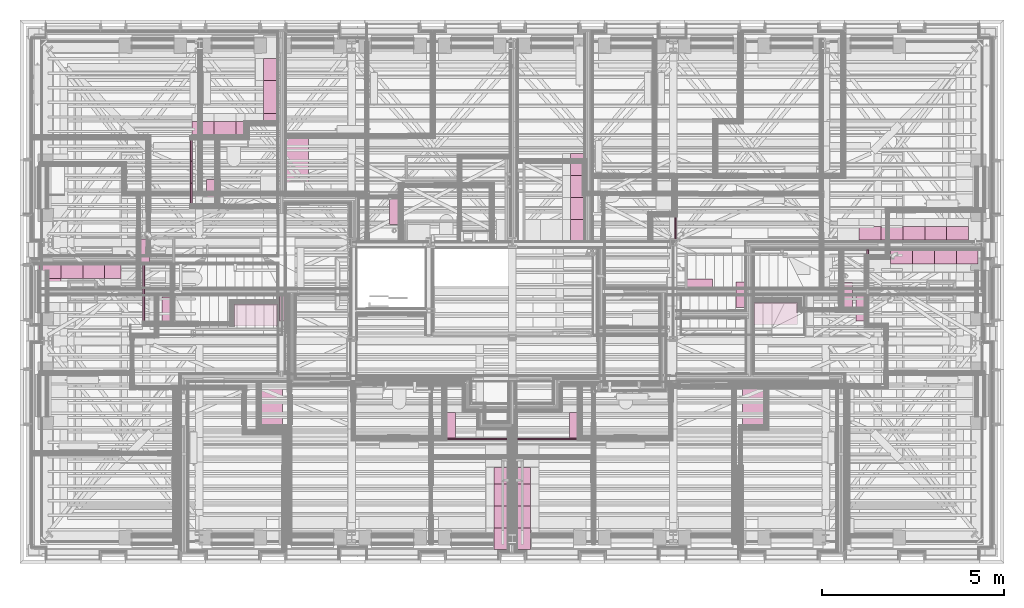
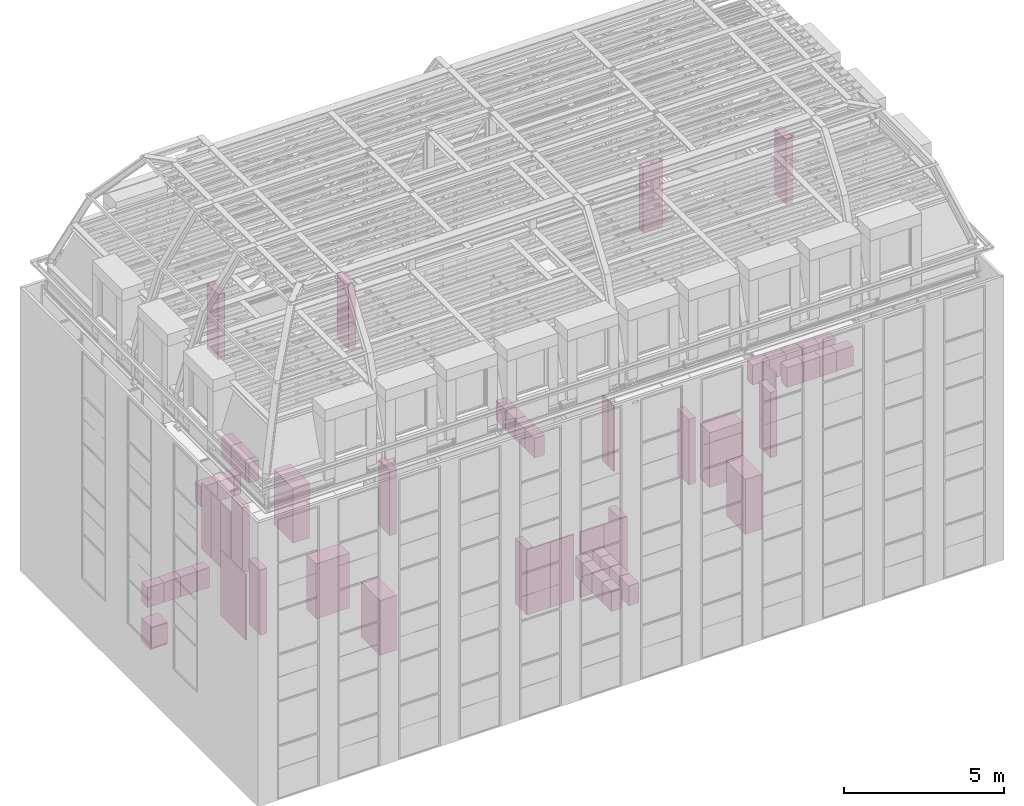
# One storey, part 180 of 183: 59 furnishings.
"""IFC2X3 building model written with IfcOpenShell, lengths in metres."""

from ifc_helpers import new_model, entity, si_unit, converted_unit, derived_unit, money_unit, direction, frame, frame_2d, origin_with_axes, place, context, subcontext, project, spatial, rectangle, extrude, faceted_brep, material, type_object, element, save


model = new_model("IFC2X3")

# Units and contexts
model_context = context("Model", 3, precision=1e-05, world=origin_with_axes(), true_north=direction((0.0, 1.0)))
body_context = subcontext(model_context, "Body", "Model", "MODEL_VIEW", scale=1.0)
ifc_project = project(units=[si_unit("LENGTHUNIT", "METRE"), si_unit("AREAUNIT", "SQUARE_METRE"), si_unit("VOLUMEUNIT", "CUBIC_METRE"), si_unit("ABSORBEDDOSEUNIT", "GRAY"), si_unit("AMOUNTOFSUBSTANCEUNIT", "MOLE"), si_unit("DOSEEQUIVALENTUNIT", "SIEVERT"), si_unit("ELECTRICCAPACITANCEUNIT", "FARAD"), si_unit("ELECTRICCHARGEUNIT", "COULOMB"), si_unit("ELECTRICCONDUCTANCEUNIT", "SIEMENS"), si_unit("ELECTRICCURRENTUNIT", "AMPERE"), si_unit("ELECTRICRESISTANCEUNIT", "OHM"), si_unit("ELECTRICVOLTAGEUNIT", "VOLT"), si_unit("ENERGYUNIT", "JOULE"), si_unit("FORCEUNIT", "NEWTON"), si_unit("FREQUENCYUNIT", "HERTZ"), si_unit("ILLUMINANCEUNIT", "LUX"), si_unit("INDUCTANCEUNIT", "HENRY"), si_unit("LUMINOUSFLUXUNIT", "LUMEN"), si_unit("LUMINOUSINTENSITYUNIT", "CANDELA"), si_unit("MAGNETICFLUXDENSITYUNIT", "TESLA"), si_unit("MAGNETICFLUXUNIT", "WEBER"), si_unit("MASSUNIT", "GRAM"), converted_unit("PLANEANGLEUNIT", "degree", entity("IfcReal", 0.0174532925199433), si_unit("PLANEANGLEUNIT", "RADIAN"), dimensions=[0, 0, 0, 0, 0, 0, 0]), si_unit("POWERUNIT", "WATT"), si_unit("PRESSUREUNIT", "PASCAL"), si_unit("RADIOACTIVITYUNIT", "BECQUEREL"), si_unit("SOLIDANGLEUNIT", "STERADIAN"), si_unit("THERMODYNAMICTEMPERATUREUNIT", "KELVIN"), si_unit("TIMEUNIT", "SECOND"), derived_unit("ACCELERATIONUNIT", [(si_unit("LENGTHUNIT", "METRE"), 1), (si_unit("TIMEUNIT", "SECOND"), -2)]), derived_unit("ANGULARVELOCITYUNIT", [(converted_unit("PLANEANGLEUNIT", "degree", entity("IfcReal", 0.0174532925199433), si_unit("PLANEANGLEUNIT", "RADIAN"), dimensions=[0, 0, 0, 0, 0, 0, 0]), 1), (si_unit("TIMEUNIT", "SECOND"), -1)]), derived_unit("CURVATUREUNIT", [(converted_unit("PLANEANGLEUNIT", "degree", entity("IfcReal", 0.0174532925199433), si_unit("PLANEANGLEUNIT", "RADIAN"), dimensions=[0, 0, 0, 0, 0, 0, 0]), 1), (si_unit("LENGTHUNIT", "METRE"), -1)]), derived_unit("DYNAMICVISCOSITYUNIT", [(si_unit("PRESSUREUNIT", "PASCAL"), 1), (si_unit("TIMEUNIT", "SECOND"), 1)]), derived_unit("HEATFLUXDENSITYUNIT", [(si_unit("POWERUNIT", "WATT"), 1), (si_unit("LENGTHUNIT", "METRE"), -2)]), derived_unit("HEATINGVALUEUNIT", [(si_unit("ENERGYUNIT", "JOULE"), 1), (si_unit("MASSUNIT", "GRAM"), -1)]), derived_unit("INTEGERCOUNTRATEUNIT", [(si_unit("TIMEUNIT", "SECOND"), -1)]), derived_unit("IONCONCENTRATIONUNIT", [(si_unit("MASSUNIT", "GRAM"), 1), (si_unit("VOLUMEUNIT", "CUBIC_METRE"), -1)]), derived_unit("ISOTHERMALMOISTURECAPACITYUNIT", [(si_unit("VOLUMEUNIT", "CUBIC_METRE"), 1), (si_unit("MASSUNIT", "GRAM"), -1)]), derived_unit("KINEMATICVISCOSITYUNIT", [(si_unit("AREAUNIT", "SQUARE_METRE"), 1), (si_unit("TIMEUNIT", "SECOND"), -1)]), derived_unit("LINEARFORCEUNIT", [(si_unit("FORCEUNIT", "NEWTON"), 1), (si_unit("LENGTHUNIT", "METRE"), -1)]), derived_unit("LINEARMOMENTUNIT", [(si_unit("FORCEUNIT", "NEWTON"), 1), (si_unit("LENGTHUNIT", "METRE"), -1)]), derived_unit("LINEARSTIFFNESSUNIT", [(si_unit("FORCEUNIT", "NEWTON"), 1), (si_unit("LENGTHUNIT", "METRE"), -1)]), derived_unit("LINEARVELOCITYUNIT", [(si_unit("LENGTHUNIT", "METRE"), 1), (si_unit("TIMEUNIT", "SECOND"), -1)]), derived_unit("LUMINOUSINTENSITYDISTRIBUTIONUNIT", [(si_unit("LUMINOUSINTENSITYUNIT", "CANDELA"), 1), (si_unit("LUMINOUSFLUXUNIT", "LUMEN"), -1)]), derived_unit("MASSDENSITYUNIT", [(si_unit("MASSUNIT", "GRAM"), 1), (si_unit("VOLUMEUNIT", "CUBIC_METRE"), -1)]), derived_unit("MASSFLOWRATEUNIT", [(si_unit("MASSUNIT", "GRAM"), 1), (si_unit("TIMEUNIT", "SECOND"), -1)]), derived_unit("MASSPERLENGTHUNIT", [(si_unit("MASSUNIT", "GRAM"), 1), (si_unit("LENGTHUNIT", "METRE"), -1)]), derived_unit("MODULUSOFELASTICITYUNIT", [(si_unit("FORCEUNIT", "NEWTON"), 1), (si_unit("AREAUNIT", "SQUARE_METRE"), -1)]), derived_unit("MODULUSOFLINEARSUBGRADEREACTIONUNIT", [(si_unit("FORCEUNIT", "NEWTON"), 1), (si_unit("LENGTHUNIT", "METRE"), -2)]), derived_unit("MODULUSOFROTATIONALSUBGRADEREACTIONUNIT", [(si_unit("FORCEUNIT", "NEWTON"), 1), (si_unit("LENGTHUNIT", "METRE"), 1)]), derived_unit("MODULUSOFSUBGRADEREACTIONUNIT", [(si_unit("FORCEUNIT", "NEWTON"), 1), (si_unit("VOLUMEUNIT", "CUBIC_METRE"), -1)]), derived_unit("MOISTUREDIFFUSIVITYUNIT", [(si_unit("VOLUMEUNIT", "CUBIC_METRE"), 1), (si_unit("TIMEUNIT", "SECOND"), -1)]), derived_unit("MOLECULARWEIGHTUNIT", [(si_unit("MASSUNIT", "GRAM"), 1), (si_unit("AMOUNTOFSUBSTANCEUNIT", "MOLE"), -1)]), derived_unit("PLANARFORCEUNIT", [(si_unit("FORCEUNIT", "NEWTON"), 1), (si_unit("LENGTHUNIT", "METRE"), -2)]), derived_unit("ROTATIONALFREQUENCYUNIT", [(si_unit("TIMEUNIT", "SECOND"), -1)]), derived_unit("ROTATIONALMASSUNIT", [(si_unit("MASSUNIT", "GRAM"), 1), (si_unit("LENGTHUNIT", "METRE"), 2)]), derived_unit("ROTATIONALSTIFFNESSUNIT", [(si_unit("FORCEUNIT", "NEWTON"), 1), (si_unit("LENGTHUNIT", "METRE"), 1), (converted_unit("PLANEANGLEUNIT", "degree", entity("IfcReal", 0.0174532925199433), si_unit("PLANEANGLEUNIT", "RADIAN"), dimensions=[0, 0, 0, 0, 0, 0, 0]), -1)]), derived_unit("SECTIONAREAINTEGRALUNIT", [(si_unit("LENGTHUNIT", "METRE"), 5)]), derived_unit("SECTIONMODULUSUNIT", [(si_unit("LENGTHUNIT", "METRE"), 3)]), derived_unit("SHEARMODULUSUNIT", [(si_unit("FORCEUNIT", "NEWTON"), 1), (si_unit("AREAUNIT", "SQUARE_METRE"), -1)]), derived_unit("SOUNDPOWERUNIT", [(si_unit("ENERGYUNIT", "JOULE"), 1), (si_unit("TIMEUNIT", "SECOND"), -1)]), derived_unit("SPECIFICHEATCAPACITYUNIT", [(si_unit("FORCEUNIT", "NEWTON"), 1), (si_unit("MASSUNIT", "GRAM"), -1), (si_unit("THERMODYNAMICTEMPERATUREUNIT", "KELVIN"), -1)]), derived_unit("TEMPERATUREGRADIENTUNIT", [(si_unit("THERMODYNAMICTEMPERATUREUNIT", "KELVIN"), 1), (si_unit("LENGTHUNIT", "METRE"), -1)]), derived_unit("THERMALADMITTANCEUNIT", [(si_unit("POWERUNIT", "WATT"), 1), (si_unit("AREAUNIT", "SQUARE_METRE"), -1), (si_unit("THERMODYNAMICTEMPERATUREUNIT", "KELVIN"), -1)]), derived_unit("THERMALCONDUCTANCEUNIT", [(si_unit("POWERUNIT", "WATT"), 1), (si_unit("LENGTHUNIT", "METRE"), -1), (si_unit("THERMODYNAMICTEMPERATUREUNIT", "KELVIN"), -1)]), derived_unit("THERMALEXPANSIONCOEFFICIENTUNIT", [(si_unit("THERMODYNAMICTEMPERATUREUNIT", "KELVIN"), -1)]), derived_unit("THERMALRESISTANCEUNIT", [(si_unit("AREAUNIT", "SQUARE_METRE"), 1), (si_unit("POWERUNIT", "WATT"), -1)]), derived_unit("THERMALTRANSMITTANCEUNIT", [(si_unit("POWERUNIT", "WATT"), 1), (si_unit("AREAUNIT", "SQUARE_METRE"), -1), (si_unit("THERMODYNAMICTEMPERATUREUNIT", "KELVIN"), -1)]), derived_unit("TORQUEUNIT", [(si_unit("FORCEUNIT", "NEWTON"), 1), (si_unit("LENGTHUNIT", "METRE"), 1)]), derived_unit("VAPORPERMEABILITYUNIT", [(si_unit("MASSUNIT", "GRAM"), 1), (si_unit("TIMEUNIT", "SECOND"), -1)]), derived_unit("VOLUMETRICFLOWRATEUNIT", [(si_unit("VOLUMEUNIT", "CUBIC_METRE"), 1), (si_unit("TIMEUNIT", "SECOND"), -1)]), derived_unit("WARPINGCONSTANTUNIT", [(si_unit("LENGTHUNIT", "METRE"), 6)]), derived_unit("WARPINGMOMENTUNIT", [(si_unit("FORCEUNIT", "NEWTON"), 1), (si_unit("LENGTHUNIT", "METRE"), 2)]), money_unit("GBP")], contexts=[model_context])

# Site, building, storey, space
site_placement = place(None, origin_with_axes())
site = spatial("IfcSite", under=ifc_project, at=site_placement, Name="Site", CompositionType="ELEMENT")
building_placement = place(site_placement, origin_with_axes())
building = spatial("IfcBuilding", under=site, at=building_placement, Name="Building01", CompositionType="ELEMENT")
storey_placement = place(building_placement, frame((0.0, 0.0, 5.15), z_axis=(0.0, 0.0, 1.0), x_axis=(1.0, 0.0, 0.0)))
storey = spatial("IfcBuildingStorey", under=building, at=storey_placement, Name="1F", CompositionType="ELEMENT", Elevation=5.15)
space_1_placement = place(storey_placement, frame((0.318, 8.21067, 0.017975), z_axis=(0.0, 0.0, 1.0), x_axis=(0.0, -1.0, 0.0)))
space_1 = spatial("IfcSpace", under=storey, at=space_1_placement, Name="06", CompositionType="ELEMENT", InteriorOrExteriorSpace="NOTDEFINED")

# Furnishing
furniture_type_1 = type_object("IfcFurnitureType", Name="SHE_A-Cupboard_Electro")
furnishing_1_placement = place(storey_placement, frame((4.14573, 7.306475, 0.0), z_axis=(0.0, 0.0, 1.0), x_axis=(0.0, -1.0, 0.0)))
element("IfcFurnishingElement", 1, at=furnishing_1_placement, inside=space_1, type_object=furniture_type_1, Name="06", ObjectType="SHE_A-Cupboard_Electro", context=body_context, shape_type="SweptSolid", body=[
    extrude(rectangle(XDim=0.25, YDim=0.7, at=frame_2d((0.35, -0.125), x_axis=(0.0, -1.0))), origin_with_axes(), (0.0, 0.0, 1.0), 2.5),
])

# Space
space_2_placement = place(storey_placement, frame((7.289669, 14.582, 0.017975), z_axis=(0.0, 0.0, 1.0), x_axis=(0.0, -1.0, 0.0)))
space_2 = spatial("IfcSpace", under=storey, at=space_2_placement, Name="08", CompositionType="ELEMENT", InteriorOrExteriorSpace="NOTDEFINED")

# Furnishing
furnishing_2_placement = place(storey_placement, frame((10.128871, 9.292704, 0.0), z_axis=(0.0, 0.0, 1.0), x_axis=(0.0, 1.0, 0.0)))
element("IfcFurnishingElement", 2, at=furnishing_2_placement, inside=space_2, type_object=furniture_type_1, Name="08", ObjectType="SHE_A-Cupboard_Electro", context=body_context, shape_type="SweptSolid", body=[
    extrude(rectangle(XDim=0.25, YDim=0.7, at=frame_2d((0.35, -0.125), x_axis=(0.0, -1.0))), origin_with_axes(), (0.0, 0.0, 1.0), 2.5),
])

# Space
space_3_placement = place(storey_placement, frame((19.486661, 9.42, 0.017975), z_axis=(0.0, 0.0, 1.0), x_axis=(0.0, -1.0, 0.0)))
space_3 = spatial("IfcSpace", under=storey, at=space_3_placement, Name="storage", CompositionType="ELEMENT", InteriorOrExteriorSpace="NOTDEFINED")

# Furnishing
furnishing_3_placement = place(storey_placement, frame((19.632661, 7.716, 0.0), z_axis=(0.0, 0.0, 1.0), x_axis=(0.0, -1.0, 0.0)))
element("IfcFurnishingElement", 3, at=furnishing_3_placement, inside=space_3, type_object=furniture_type_1, Name="02", ObjectType="SHE_A-Cupboard_Electro", context=body_context, shape_type="SweptSolid", body=[
    extrude(rectangle(XDim=0.25, YDim=0.7, at=frame_2d((0.35, 0.125), x_axis=(0.0, 1.0))), origin_with_axes(), (0.0, 0.0, 1.0), 2.5),
])

# Space
space_4_placement = place(storey_placement, frame((20.122661, 5.205, 0.017975), z_axis=(0.0, 0.0, 1.0), x_axis=(1.0, 0.0, 0.0)))
space_4 = spatial("IfcSpace", under=storey, at=space_4_placement, Name="03", CompositionType="ELEMENT", InteriorOrExteriorSpace="NOTDEFINED")

# Furnishing
furnishing_4_placement = place(storey_placement, frame((22.571661, 7.0, 0.0), z_axis=(0.0, 0.0, 1.0), x_axis=(0.0, 1.0, 0.0)))
element("IfcFurnishingElement", 4, at=furnishing_4_placement, inside=space_4, type_object=furniture_type_1, Name="03", ObjectType="SHE_A-Cupboard_Electro", context=body_context, shape_type="SweptSolid", body=[
    extrude(rectangle(XDim=0.25, YDim=0.7, at=frame_2d((0.35, -0.125), x_axis=(0.0, -1.0))), origin_with_axes(), (0.0, 0.0, 1.0), 2.5),
])

# Space
space_5_placement = place(storey_placement, frame((4.969669, 9.83067, 0.017975), z_axis=(0.0, 0.0, 1.0), x_axis=(1.0, 0.0, 0.0)))
space_5 = spatial("IfcSpace", under=storey, at=space_5_placement, Name="storage", CompositionType="ELEMENT", InteriorOrExteriorSpace="NOTDEFINED")

# Furnishing
furnishing_5_placement = place(storey_placement, frame((5.119669, 9.83067, 0.0), z_axis=(0.0, 0.0, 1.0), x_axis=(0.0, 1.0, 0.0)))
element("IfcFurnishingElement", 5, at=furnishing_5_placement, inside=space_5, type_object=furniture_type_1, Name="07", ObjectType="SHE_A-Cupboard_Electro", context=body_context, shape_type="SweptSolid", body=[
    extrude(rectangle(XDim=0.25, YDim=0.7, at=frame_2d((0.35, -0.125), x_axis=(0.0, -1.0))), origin_with_axes(), (0.0, 0.0, 1.0), 2.5),
])

# Space
space_6_placement = place(storey_placement, frame((14.85, 4.98, 0.017975), z_axis=(0.0, 0.0, 1.0), x_axis=(0.0, -1.0, 0.0)))
space_6 = spatial("IfcSpace", under=storey, at=space_6_placement, Name="04", CompositionType="ELEMENT", InteriorOrExteriorSpace="NOTDEFINED")

# Furnishing
furnishing_6_placement = place(storey_placement, frame((15.0625, 3.435, 0.0), z_axis=(0.0, 0.0, 1.0), x_axis=(0.0, 1.0, 0.0)))
element("IfcFurnishingElement", 6, at=furnishing_6_placement, inside=space_6, type_object=furniture_type_1, Name="04", ObjectType="SHE_A-Cupboard_Electro", context=body_context, shape_type="SweptSolid", body=[
    extrude(rectangle(XDim=0.25, YDim=0.7, at=frame_2d((0.35, -0.125), x_axis=(0.0, -1.0))), origin_with_axes(), (0.0, 0.0, 1.0), 2.5),
])

# Space
space_7_placement = place(storey_placement, frame((12.15, 4.98, 0.017975), z_axis=(0.0, 0.0, 1.0), x_axis=(-1.0, 0.0, 0.0)))
space_7 = spatial("IfcSpace", under=storey, at=space_7_placement, Name="05", CompositionType="ELEMENT", InteriorOrExteriorSpace="NOTDEFINED")

# Furnishing
furnishing_7_placement = place(storey_placement, frame((11.687536, 3.435, 0.0), z_axis=(0.0, 0.0, 1.0), x_axis=(0.0, 1.0, 0.0)))
element("IfcFurnishingElement", 7, at=furnishing_7_placement, inside=space_7, type_object=furniture_type_1, Name="05", ObjectType="SHE_A-Cupboard_Electro", context=body_context, shape_type="SweptSolid", body=[
    extrude(rectangle(XDim=0.25, YDim=0.7, at=frame_2d((0.35, -0.125), x_axis=(0.0, -1.0))), origin_with_axes(), (0.0, 0.0, 1.0), 2.5),
])

# Space
space_8_placement = place(storey_placement, frame((1.009939, 13.890379, 9.81), z_axis=(0.0, 0.0, 1.0), x_axis=(0.0, -1.0, 0.0)))
space_8 = spatial("IfcSpace", under=storey, at=space_8_placement, Name="26", CompositionType="ELEMENT", InteriorOrExteriorSpace="NOTDEFINED")

# Furnishing
furnishing_8_placement = place(storey_placement, frame((3.55, 8.899939, 9.78), z_axis=(0.0, 0.0, 1.0), x_axis=(0.0, -1.0, 0.0)))
element("IfcFurnishingElement", 8, at=furnishing_8_placement, inside=space_8, type_object=furniture_type_1, Name="26", ObjectType="SHE_A-Cupboard_Electro", context=body_context, shape_type="SweptSolid", body=[
    extrude(rectangle(XDim=0.25, YDim=0.7, at=frame_2d((0.35, -0.125), x_axis=(0.0, -1.0))), origin_with_axes(), (0.0, 0.0, 1.0), 2.5),
])

# Space
space_9_placement = place(storey_placement, frame((12.175, 4.189428, 9.81), z_axis=(0.0, 0.0, 1.0), x_axis=(0.0, 1.0, 0.0)))
space_9 = spatial("IfcSpace", under=storey, at=space_9_placement, Name="25", CompositionType="ELEMENT", InteriorOrExteriorSpace="NOTDEFINED")

# Furnishing
furnishing_9_placement = place(storey_placement, frame((7.11, 6.649939, 9.78), z_axis=(0.0, 0.0, 1.0), x_axis=(0.0, 1.0, 0.0)))
element("IfcFurnishingElement", 9, at=furnishing_9_placement, inside=space_9, type_object=furniture_type_1, Name="25", ObjectType="SHE_A-Cupboard_Electro", context=body_context, shape_type="SweptSolid", body=[
    extrude(rectangle(XDim=0.25, YDim=0.7, at=frame_2d((0.35, -0.125), x_axis=(0.0, -1.0))), origin_with_axes(), (0.0, 0.0, 1.0), 2.5),
])

# Space
space_10_placement = place(storey_placement, frame((21.51844, 7.349915, 9.78), z_axis=(0.0, 0.0, 1.0), x_axis=(0.0, -1.0, 0.0)))
space_10 = spatial("IfcSpace", under=storey, at=space_10_placement, Name="storage", CompositionType="ELEMENT", InteriorOrExteriorSpace="NOTDEFINED")

# Furnishing
furnishing_10_placement = place(storey_placement, frame((22.928821, 6.649939, 9.78), z_axis=(0.0, 0.0, 1.0), x_axis=(0.0, 1.0, 0.0)))
element("IfcFurnishingElement", 10, at=furnishing_10_placement, inside=space_10, type_object=furniture_type_1, Name="24", ObjectType="SHE_A-Cupboard_Electro", context=body_context, shape_type="SweptSolid", body=[
    extrude(rectangle(XDim=0.25, YDim=0.7, at=frame_2d((0.35, -0.125), x_axis=(0.0, -1.0))), origin_with_axes(), (0.0, 0.0, 1.0), 2.5),
])

# Space
space_11_placement = place(storey_placement, frame((16.03844, 8.82, 9.81), z_axis=(0.0, 0.0, 1.0), x_axis=(0.0, -1.0, 0.0)))
space_11 = spatial("IfcSpace", under=storey, at=space_11_placement, Name="23", CompositionType="ELEMENT", InteriorOrExteriorSpace="NOTDEFINED")

# Furnishings
furnishing_11_placement = place(storey_placement, frame((18.289976, 7.799915, 9.78), z_axis=(0.0, 0.0, 1.0), x_axis=(1.0, 0.0, 0.0)))
element("IfcFurnishingElement", 11, at=furnishing_11_placement, inside=space_11, type_object=furniture_type_1, Name="23", ObjectType="SHE_A-Cupboard_Electro", context=body_context, shape_type="SweptSolid", body=[
    extrude(rectangle(XDim=0.25, YDim=0.7, at=frame_2d((0.35, -0.125), x_axis=(0.0, -1.0))), origin_with_axes(), (0.0, 0.0, 1.0), 2.5),
])
ifc_material = material(Name="A_BSUK_StorageScreening_Ffe")
furniture_type_2 = type_object("IfcFurnitureType", Name="SHE_A-Kitchenunit-Base")
furnishing_12_placement = place(storey_placement, frame((0.0, 0.0, -5.15), z_axis=(0.0, 0.0, 1.0), x_axis=(1.0, 0.0, 0.0)))
element("IfcFurnishingElement", 12, at=furnishing_12_placement, inside=space_1, type_object=furniture_type_2, material=ifc_material, Name="06", ObjectType="SHE_A-Kitchenunit-Base", context=body_context, shape_type="Brep", body=[
    faceted_brep([(0.52073, 8.18817, 6.039), (1.12073, 8.18817, 6.039), (1.12073, 8.18817, 5.154), (0.52073, 8.18817, 5.154), (1.12073, 7.595241, 6.039), (1.12073, 7.58817, 6.031929), (1.12073, 7.58817, 6.021071), (1.12073, 7.595241, 6.014), (1.12073, 7.58817, 6.014), (1.12073, 7.58817, 5.254), (1.12073, 7.63817, 5.254), (1.12073, 7.63817, 5.154), (0.52073, 7.63817, 5.254), (0.52073, 7.63817, 5.154), (0.52073, 7.58817, 5.254), (0.52073, 7.58817, 6.014), (0.52073, 7.595241, 6.014), (0.52073, 7.58817, 6.021071), (0.52073, 7.58817, 6.031929), (0.52073, 7.595241, 6.039)], [[[0, 1, 2, 3]], [[1, 4, 5, 6, 7, 8, 9, 10, 11, 2]], [[12, 13, 11, 10]], [[12, 14, 15, 16, 17, 18, 19, 0, 3, 13]], [[2, 11, 13, 3]], [[7, 16, 15, 8]], [[9, 8, 15, 14]], [[10, 9, 14, 12]], [[5, 18, 17, 6]], [[19, 4, 1, 0]], [[6, 17, 16, 7]], [[4, 19, 18, 5]]]),
])

# Space
space_12_placement = place(storey_placement, frame((7.064669, 7.111475, 0.017975), z_axis=(0.0, 0.0, 1.0), x_axis=(-1.0, 0.0, 0.0)))
space_12 = spatial("IfcSpace", under=storey, at=space_12_placement, Name="k/d/l", CompositionType="ELEMENT", InteriorOrExteriorSpace="NOTDEFINED")

# Furnishings
furniture_type_3 = type_object("IfcFurnitureType", Name="SHE_A-Kitchenunit-Wall")
for number, where, z_axis, x_axis, name in (
    (13, (1.72073, 8.18817, 1.504), (0.0, 0.0, 1.0), (1.0, 0.0, 0.0), "06"),
    (14, (1.12073, 8.18817, 1.504), (0.0, 0.0, 1.0), (1.0, 0.0, 0.0), "06"),
    (15, (0.52073, 8.18817, 1.504), (0.0, 0.0, 1.0), (1.0, 0.0, 0.0), "06"),
):
    element("IfcFurnishingElement", number, at=place(storey_placement, frame(where, z_axis=z_axis, x_axis=x_axis)), inside=space_12, type_object=furniture_type_3, Name=name, ObjectType="SHE_A-Kitchenunit-Wall", context=body_context, shape_type="SweptSolid", body=[
        extrude(rectangle(XDim=0.37, YDim=0.6, at=frame_2d((0.3, -0.185), x_axis=(0.0, -1.0))), origin_with_axes(), (0.0, 0.0, 1.0), 0.76),
    ])

# Space
space_13_placement = place(storey_placement, frame((11.375, 10.415, 0.017975), z_axis=(0.0, 0.0, 1.0), x_axis=(1.0, 0.0, 0.0)))
space_13 = spatial("IfcSpace", under=storey, at=space_13_placement, Name="k/d/l", CompositionType="ELEMENT", InteriorOrExteriorSpace="NOTDEFINED")

# Furnishings
for number, where, z_axis, x_axis, name in (
    (16, (15.468132, 9.435, 1.504), (0.0, 0.0, 1.0), (0.0, -1.0, 0.0), "08"),
    (17, (15.468132, 10.035, 1.504), (0.0, 0.0, 1.0), (0.0, -1.0, 0.0), "08"),
    (18, (15.468132, 10.635, 1.504), (0.0, 0.0, 1.0), (0.0, -1.0, 0.0), "08"),
    (19, (15.468132, 11.235, 1.504), (0.0, 0.0, 1.0), (0.0, -1.0, 0.0), "08"),
):
    element("IfcFurnishingElement", number, at=place(storey_placement, frame(where, z_axis=z_axis, x_axis=x_axis)), inside=space_13, type_object=furniture_type_3, Name=name, ObjectType="SHE_A-Kitchenunit-Wall", context=body_context, shape_type="SweptSolid", body=[
        extrude(rectangle(XDim=0.37, YDim=0.6, at=frame_2d((0.3, -0.185), x_axis=(0.0, -1.0))), origin_with_axes(), (0.0, 0.0, 1.0), 0.76),
    ])

# Space
space_14_placement = place(storey_placement, frame((15.83, 8.82, 0.017975), z_axis=(0.0, 0.0, 1.0), x_axis=(0.0, -1.0, 0.0)))
space_14 = spatial("IfcSpace", under=storey, at=space_14_placement, Name="02", CompositionType="ELEMENT", InteriorOrExteriorSpace="NOTDEFINED")

# Furnishings
for number, where, z_axis, x_axis, name in (
    (20, (23.609999, 8.863, 1.504), (0.0, 0.0, 1.0), (-1.0, 0.0, 0.0), "02"),
    (21, (24.209999, 8.863, 1.504), (0.0, 0.0, 1.0), (-1.0, 0.0, 0.0), "02"),
    (22, (24.809999, 8.863, 1.504), (0.0, 0.0, 1.0), (-1.0, 0.0, 0.0), "02"),
    (23, (25.409999, 8.863, 1.504), (0.0, 0.0, 1.0), (-1.0, 0.0, 0.0), "02"),
    (24, (26.009999, 8.863, 1.504), (0.0, 0.0, 1.0), (-1.0, 0.0, 0.0), "02"),
):
    element("IfcFurnishingElement", number, at=place(storey_placement, frame(where, z_axis=z_axis, x_axis=x_axis)), inside=space_14, type_object=furniture_type_3, Name=name, ObjectType="SHE_A-Kitchenunit-Wall", context=body_context, shape_type="SweptSolid", body=[
        extrude(rectangle(XDim=0.37, YDim=0.6, at=frame_2d((0.3, -0.185), x_axis=(0.0, -1.0))), origin_with_axes(), (0.0, 0.0, 1.0), 0.76),
    ])

# Space
space_15_placement = place(storey_placement, frame((20.122661, 7.155, 0.017975), z_axis=(0.0, 0.0, 1.0), x_axis=(0.0, -1.0, 0.0)))
space_15 = spatial("IfcSpace", under=storey, at=space_15_placement, Name="studio", CompositionType="ELEMENT", InteriorOrExteriorSpace="NOTDEFINED")

# Furnishings
for number, where, z_axis, x_axis, name in (
    (25, (25.671529, 8.58, 1.504), (0.0, 0.0, 1.0), (-1.0, 0.0, 0.0), "03"),
    (26, (25.071529, 8.58, 1.504), (0.0, 0.0, 1.0), (-1.0, 0.0, 0.0), "03"),
    (27, (24.471529, 8.58, 1.504), (0.0, 0.0, 1.0), (-1.0, 0.0, 0.0), "03"),
    (28, (26.271529, 8.58, 1.504), (0.0, 0.0, 1.0), (-1.0, 0.0, 0.0), "03"),
):
    element("IfcFurnishingElement", number, at=place(storey_placement, frame(where, z_axis=z_axis, x_axis=x_axis)), inside=space_15, type_object=furniture_type_3, Name=name, ObjectType="SHE_A-Kitchenunit-Wall", context=body_context, shape_type="SweptSolid", body=[
        extrude(rectangle(XDim=0.37, YDim=0.6, at=frame_2d((0.3, 0.185), x_axis=(0.0, 1.0))), origin_with_axes(), (0.0, 0.0, 1.0), 0.76),
    ])
for number, where, z_axis, x_axis, name in (
    (29, (13.631, 2.175001, 1.504), (0.0, 0.0, 1.0), (0.0, -1.0, 0.0), "04"),
    (30, (13.631, 1.575001, 1.504), (0.0, 0.0, 1.0), (0.0, -1.0, 0.0), "04"),
):
    element("IfcFurnishingElement", number, at=place(storey_placement, frame(where, z_axis=z_axis, x_axis=x_axis)), inside=space_6, type_object=furniture_type_3, Name=name, ObjectType="SHE_A-Kitchenunit-Wall", context=body_context, shape_type="SweptSolid", body=[
        extrude(rectangle(XDim=0.37, YDim=0.6, at=frame_2d((0.3, 0.185), x_axis=(0.0, 1.0))), origin_with_axes(), (0.0, 0.0, 1.0), 0.76),
    ])

# Space
space_16_placement = place(storey_placement, frame((17.9025, 3.385, 0.017975), z_axis=(0.0, 0.0, 1.0), x_axis=(-1.0, 0.0, 0.0)))
space_16 = spatial("IfcSpace", under=storey, at=space_16_placement, Name="k/d/l", CompositionType="ELEMENT", InteriorOrExteriorSpace="NOTDEFINED")

# Furnishing
furnishing_13_placement = place(storey_placement, frame((13.631, 0.975001, 1.504), z_axis=(0.0, 0.0, 1.0), x_axis=(0.0, -1.0, 0.0)))
element("IfcFurnishingElement", 31, at=furnishing_13_placement, inside=space_16, type_object=furniture_type_3, Name="04", ObjectType="SHE_A-Kitchenunit-Wall", context=body_context, shape_type="SweptSolid", body=[
    extrude(rectangle(XDim=0.37, YDim=0.6, at=frame_2d((0.3, 0.185), x_axis=(0.0, 1.0))), origin_with_axes(), (0.0, 0.0, 1.0), 0.76),
])

# Space
space_17_placement = place(storey_placement, frame((6.595, 4.98, 0.017975), z_axis=(0.0, 0.0, 1.0), x_axis=(0.0, -1.0, 0.0)))
space_17 = spatial("IfcSpace", under=storey, at=space_17_placement, Name="k/d/l", CompositionType="ELEMENT", InteriorOrExteriorSpace="NOTDEFINED")

# Furnishings
for number, where, z_axis, x_axis, name in (
    (32, (13.369, 1.575001, 1.504), (0.0, 0.0, 1.0), (0.0, -1.0, 0.0), "05"),
    (33, (13.369, 0.975001, 1.504), (0.0, 0.0, 1.0), (0.0, -1.0, 0.0), "05"),
    (34, (13.369, 2.175001, 1.504), (0.0, 0.0, 1.0), (0.0, -1.0, 0.0), "05"),
):
    element("IfcFurnishingElement", number, at=place(storey_placement, frame(where, z_axis=z_axis, x_axis=x_axis)), inside=space_17, type_object=furniture_type_3, Name=name, ObjectType="SHE_A-Kitchenunit-Wall", context=body_context, shape_type="SweptSolid", body=[
        extrude(rectangle(XDim=0.37, YDim=0.6, at=frame_2d((0.3, -0.185), x_axis=(0.0, -1.0))), origin_with_axes(), (0.0, 0.0, 1.0), 0.76),
    ])

# Space
space_18_placement = place(storey_placement, frame((0.318, 11.72567, 0.017975), z_axis=(0.0, 0.0, 1.0), x_axis=(1.0, 0.0, 0.0)))
space_18 = spatial("IfcSpace", under=storey, at=space_18_placement, Name="k/d/l", CompositionType="ELEMENT", InteriorOrExteriorSpace="NOTDEFINED")

# Furnishings
for number, where, z_axis, x_axis, name in (
    (35, (4.719669, 11.74067, 1.504), (0.0, 0.0, 1.0), (1.0, 0.0, 0.0), "07"),
    (36, (7.049669, 13.24067, 1.504), (0.0, 0.0, 1.0), (0.0, 1.0, 0.0), "07"),
):
    element("IfcFurnishingElement", number, at=place(storey_placement, frame(where, z_axis=z_axis, x_axis=x_axis)), inside=space_18, type_object=furniture_type_3, Name=name, ObjectType="SHE_A-Kitchenunit-Wall", context=body_context, shape_type="SweptSolid", body=[
        extrude(rectangle(XDim=0.37, YDim=0.6, at=frame_2d((0.3, 0.185), x_axis=(0.0, 1.0))), origin_with_axes(), (0.0, 0.0, 1.0), 0.76),
    ])
furnishing_14_placement = place(storey_placement, frame((7.049669, 12.34067, 1.504), z_axis=(0.0, 0.0, 1.0), x_axis=(0.0, 1.0, 0.0)))
element("IfcFurnishingElement", 37, at=furnishing_14_placement, inside=space_18, type_object=furniture_type_3, Name="07", ObjectType="SHE_A-Kitchenunit-Wall", context=body_context, shape_type="SweptSolid", body=[
    extrude(rectangle(XDim=0.37, YDim=0.9, at=frame_2d((0.45, 0.185), x_axis=(0.0, 1.0))), origin_with_axes(), (0.0, 0.0, 1.0), 0.76),
])
furnishing_15_placement = place(storey_placement, frame((5.319669, 11.74067, 1.504), z_axis=(0.0, 0.0, 1.0), x_axis=(1.0, 0.0, 0.0)))
element("IfcFurnishingElement", 38, at=furnishing_15_placement, inside=space_18, type_object=furniture_type_3, Name="07", ObjectType="SHE_A-Kitchenunit-Wall", context=body_context, shape_type="SweptSolid", body=[
    extrude(rectangle(XDim=0.37, YDim=0.6, at=frame_2d((0.3, 0.185), x_axis=(0.0, 1.0))), origin_with_axes(), (0.0, 0.0, 1.0), 0.76),
])
furnishing_16_placement = place(storey_placement, frame((5.919669, 11.74067, 1.504), z_axis=(0.0, 0.0, 1.0), x_axis=(1.0, 0.0, 0.0)))
element("IfcFurnishingElement", 39, at=furnishing_16_placement, inside=space_18, type_object=furniture_type_3, Name="07", ObjectType="SHE_A-Kitchenunit-Wall", context=body_context, shape_type="SweptSolid", body=[
    extrude(rectangle(XDim=0.37, YDim=0.25, at=frame_2d((0.125, 0.185), x_axis=(0.0, 1.0))), origin_with_axes(), (0.0, 0.0, 1.0), 0.76),
])
furnishing_17_placement = place(storey_placement, frame((7.049669, 12.12567, 1.504), z_axis=(0.0, 0.0, 1.0), x_axis=(0.0, 1.0, 0.0)))
element("IfcFurnishingElement", 40, at=furnishing_17_placement, inside=space_18, type_object=furniture_type_3, Name="07", ObjectType="SHE_A-Kitchenunit-Wall", context=body_context, shape_type="SweptSolid", body=[
    extrude(rectangle(XDim=0.37, YDim=0.215, at=frame_2d((0.1075, 0.185), x_axis=(0.0, 1.0))), origin_with_axes(), (0.0, 0.0, 1.0), 0.76),
])
furniture_type_4 = type_object("IfcFurnitureType", Name="SHE_A-Wardrobe_hall 40x90")
furnishing_18_placement = place(storey_placement, frame((5.864669, 7.111475, 0.0), z_axis=(0.0, 0.0, 1.0), x_axis=(1.0, 0.0, 0.0)))
element("IfcFurnishingElement", 41, at=furnishing_18_placement, inside=space_1, type_object=furniture_type_4, Name="06", ObjectType="SHE_A-Wardrobe_hall 40x90", context=body_context, shape_type="SweptSolid", body=[
    extrude(rectangle(XDim=0.6, YDim=1.2, at=frame_2d((0.6, -0.3), x_axis=(0.0, -1.0))), origin_with_axes(), (0.0, 0.0, 1.0), 2.1),
])
furnishing_19_placement = place(storey_placement, frame((20.122661, 7.155, 0.0), z_axis=(0.0, 0.0, 1.0), x_axis=(1.0, 0.0, 0.0)))
element("IfcFurnishingElement", 42, at=furnishing_19_placement, inside=space_4, type_object=furniture_type_4, Name="03", ObjectType="SHE_A-Wardrobe_hall 40x90", context=body_context, shape_type="SweptSolid", body=[
    extrude(rectangle(XDim=0.6, YDim=1.2, at=frame_2d((0.6, -0.3), x_axis=(0.0, -1.0))), origin_with_axes(), (0.0, 0.0, 1.0), 2.1),
])
furnishing_20_placement = place(storey_placement, frame((7.904669, 11.653124, 0.0), z_axis=(0.0, 0.0, 1.0), x_axis=(0.0, -1.0, 0.0)))
element("IfcFurnishingElement", 43, at=furnishing_20_placement, inside=space_2, type_object=furniture_type_4, Name="08", ObjectType="SHE_A-Wardrobe_hall 40x90", context=body_context, shape_type="SweptSolid", body=[
    extrude(rectangle(XDim=0.6, YDim=1.2, at=frame_2d((0.6, -0.3), x_axis=(0.0, -1.0))), origin_with_axes(), (0.0, 0.0, 1.0), 2.1),
])
furnishing_21_placement = place(storey_placement, frame((7.195, 4.98, 0.0), z_axis=(0.0, 0.0, 1.0), x_axis=(0.0, -1.0, 0.0)))
element("IfcFurnishingElement", 44, at=furnishing_21_placement, inside=space_7, type_object=furniture_type_4, Name="05", ObjectType="SHE_A-Wardrobe_hall 40x90", context=body_context, shape_type="SweptSolid", body=[
    extrude(rectangle(XDim=0.6, YDim=1.2, at=frame_2d((0.6, -0.3), x_axis=(0.0, -1.0))), origin_with_axes(), (0.0, 0.0, 1.0), 2.1),
])
furnishing_22_placement = place(storey_placement, frame((20.415, 4.98, 0.0), z_axis=(0.0, 0.0, 1.0), x_axis=(0.0, -1.0, 0.0)))
element("IfcFurnishingElement", 45, at=furnishing_22_placement, inside=space_16, type_object=furniture_type_4, Name="04", ObjectType="SHE_A-Wardrobe_hall 40x90", context=body_context, shape_type="SweptSolid", body=[
    extrude(rectangle(XDim=0.6, YDim=1.2, at=frame_2d((0.6, -0.3), x_axis=(0.0, -1.0))), origin_with_axes(), (0.0, 0.0, 1.0), 2.1),
])
furniture_type_5 = type_object("IfcFurnitureType", Name="SHE_A-Kitchenunit-Wall37x45")
furnishing_23_placement = place(storey_placement, frame((13.631, 2.175001, 1.504), z_axis=(0.0, 0.0, 1.0), x_axis=(0.0, 1.0, 0.0)))
element("IfcFurnishingElement", 46, at=furnishing_23_placement, inside=space_6, type_object=furniture_type_5, Name="04", ObjectType="SHE_A-Kitchenunit-Wall37x45", context=body_context, shape_type="SweptSolid", body=[
    extrude(rectangle(XDim=0.37, YDim=0.45, at=frame_2d((0.225, -0.185), x_axis=(0.0, -1.0))), origin_with_axes(), (0.0, 0.0, 1.0), 0.76),
])
furnishing_24_placement = place(storey_placement, frame((13.369, 2.175001, 1.504), z_axis=(0.0, 0.0, 1.0), x_axis=(0.0, 1.0, 0.0)))
element("IfcFurnishingElement", 47, at=furnishing_24_placement, inside=space_7, type_object=furniture_type_5, Name="05", ObjectType="SHE_A-Kitchenunit-Wall37x45", context=body_context, shape_type="SweptSolid", body=[
    extrude(rectangle(XDim=0.37, YDim=0.45, at=frame_2d((0.225, 0.185), x_axis=(0.0, 1.0))), origin_with_axes(), (0.0, 0.0, 1.0), 0.76),
])
furnishing_25_placement = place(storey_placement, frame((2.32073, 8.18817, 1.504), z_axis=(0.0, 0.0, 1.0), x_axis=(1.0, 0.0, 0.0)))
element("IfcFurnishingElement", 48, at=furnishing_25_placement, inside=space_1, type_object=furniture_type_5, Name="06", ObjectType="SHE_A-Kitchenunit-Wall37x45", context=body_context, shape_type="SweptSolid", body=[
    extrude(rectangle(XDim=0.37, YDim=0.45, at=frame_2d((0.225, -0.185), x_axis=(0.0, -1.0))), origin_with_axes(), (0.0, 0.0, 1.0), 0.76),
])
furniture_type_6 = type_object("IfcFurnitureType", Name="SHE_A-UtilityCupbord")
furnishing_26_placement = place(storey_placement, frame((3.37073, 8.18817, 0.0), z_axis=(0.0, 0.0, 1.0), x_axis=(1.0, 0.0, 0.0)))
element("IfcFurnishingElement", 49, at=furnishing_26_placement, inside=space_12, type_object=furniture_type_6, Name="06", ObjectType="SHE_A-UtilityCupbord", context=body_context, shape_type="SweptSolid", body=[
    extrude(rectangle(XDim=1.581695, YDim=0.05, at=frame_2d((0.025, -0.790847), x_axis=(0.0, -1.0))), origin_with_axes(), (0.0, 0.0, 1.0), 2.5),
])
furnishing_27_placement = place(storey_placement, frame((23.221529, 8.595, 0.0), z_axis=(0.0, 0.0, 1.0), x_axis=(1.0, 0.0, 0.0)))
element("IfcFurnishingElement", 50, at=furnishing_27_placement, inside=space_15, type_object=furniture_type_6, Name="03", ObjectType="SHE_A-UtilityCupbord", context=body_context, shape_type="SweptSolid", body=[
    extrude(rectangle(XDim=0.7725, YDim=0.05, at=frame_2d((0.025, -0.38625), x_axis=(0.0, -1.0))), origin_with_axes(), (0.0, 0.0, 1.0), 2.5),
])
for number, where, z_axis, x_axis, name in (
    (51, (13.6125, 3.385, 0.0), (0.0, 0.0, 1.0), (0.0, 1.0, 0.0), "04"),
    (52, (14.4625, 3.385, 0.0), (0.0, 0.0, 1.0), (0.0, 1.0, 0.0), "04"),
):
    element("IfcFurnishingElement", number, at=place(storey_placement, frame(where, z_axis=z_axis, x_axis=x_axis)), inside=space_16, type_object=furniture_type_6, Name=name, ObjectType="SHE_A-UtilityCupbord", context=body_context, shape_type="SweptSolid", body=[
        extrude(rectangle(XDim=0.85, YDim=0.05, at=frame_2d((0.025, -0.425), x_axis=(0.0, -1.0))), origin_with_axes(), (0.0, 0.0, 1.0), 2.5),
    ])

# Space
space_19_placement = place(storey_placement, frame((3.569669, 8.43567, 0.017975), z_axis=(0.0, 0.0, 1.0), x_axis=(1.0, 0.0, 0.0)))
space_19 = spatial("IfcSpace", under=storey, at=space_19_placement, Name="corridor", CompositionType="ELEMENT", InteriorOrExteriorSpace="NOTDEFINED")

# Furnishing
furnishing_28_placement = place(storey_placement, frame((4.669669, 11.63067, 0.0), z_axis=(0.0, 0.0, 1.0), x_axis=(1.0, 0.0, 0.0)))
element("IfcFurnishingElement", 53, at=furnishing_28_placement, inside=space_19, type_object=furniture_type_6, Name="07", ObjectType="SHE_A-UtilityCupbord", context=body_context, shape_type="SweptSolid", body=[
    extrude(rectangle(XDim=0.6, YDim=0.05, at=frame_2d((0.025, -0.3), x_axis=(0.0, -1.0))), origin_with_axes(), (0.0, 0.0, 1.0), 2.5),
])

# Space
space_20_placement = place(storey_placement, frame((22.624794, 10.57, 0.017975), z_axis=(0.0, 0.0, 1.0), x_axis=(-1.0, 0.0, 0.0)))
space_20 = spatial("IfcSpace", under=storey, at=space_20_placement, Name="corridor", CompositionType="ELEMENT", InteriorOrExteriorSpace="NOTDEFINED")

# Furnishings
for number, where, z_axis, x_axis, name in (
    (54, (17.95, 9.525, 0.0), (0.0, 0.0, 1.0), (1.0, 0.0, 0.0), "02"),
    (55, (17.95, 9.1725, 0.0), (0.0, 0.0, 1.0), (1.0, 0.0, 0.0), "02"),
):
    element("IfcFurnishingElement", number, at=place(storey_placement, frame(where, z_axis=z_axis, x_axis=x_axis)), inside=space_20, type_object=furniture_type_6, Name=name, ObjectType="SHE_A-UtilityCupbord", context=body_context, shape_type="SweptSolid", body=[
        extrude(rectangle(XDim=0.3525, YDim=0.05, at=frame_2d((0.025, -0.17625), x_axis=(0.0, -1.0))), origin_with_axes(), (0.0, 0.0, 1.0), 2.5),
    ])
for number, where, z_axis, x_axis, name in (
    (56, (4.669669, 11.03067, 0.0), (0.0, 0.0, 1.0), (1.0, 0.0, 0.0), "07"),
    (57, (4.669669, 10.43067, 0.0), (0.0, 0.0, 1.0), (1.0, 0.0, 0.0), "07"),
):
    element("IfcFurnishingElement", number, at=place(storey_placement, frame(where, z_axis=z_axis, x_axis=x_axis)), inside=space_19, type_object=furniture_type_6, Name=name, ObjectType="SHE_A-UtilityCupbord", context=body_context, shape_type="SweptSolid", body=[
        extrude(rectangle(XDim=0.6, YDim=0.05, at=frame_2d((0.025, -0.3), x_axis=(0.0, -1.0))), origin_with_axes(), (0.0, 0.0, 1.0), 2.5),
    ])
for number, where, z_axis, x_axis, name in (
    (58, (11.687536, 3.385, 0.0), (0.0, 0.0, 1.0), (0.0, 1.0, 0.0), "05"),
    (59, (12.537536, 3.385, 0.0), (0.0, 0.0, 1.0), (0.0, 1.0, 0.0), "05"),
):
    element("IfcFurnishingElement", number, at=place(storey_placement, frame(where, z_axis=z_axis, x_axis=x_axis)), inside=space_17, type_object=furniture_type_6, Name=name, ObjectType="SHE_A-UtilityCupbord", context=body_context, shape_type="SweptSolid", body=[
        extrude(rectangle(XDim=0.85, YDim=0.05, at=frame_2d((0.025, -0.425), x_axis=(0.0, -1.0))), origin_with_axes(), (0.0, 0.0, 1.0), 2.5),
    ])

save(model, "model.ifc")
